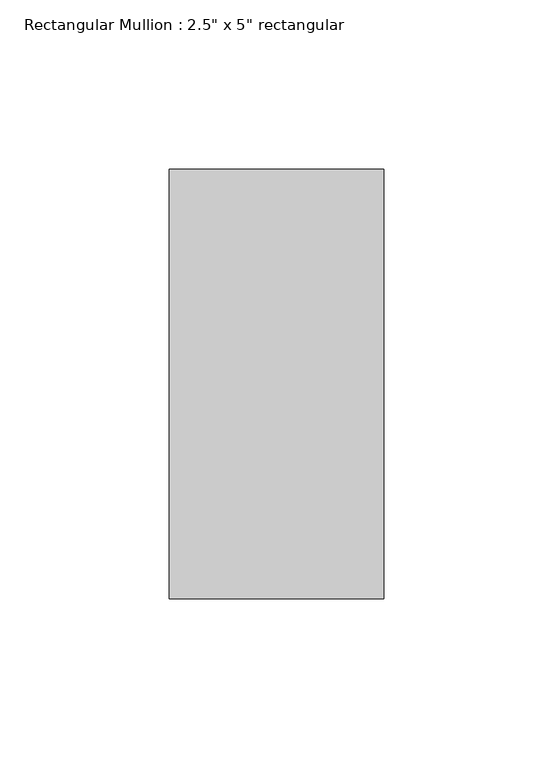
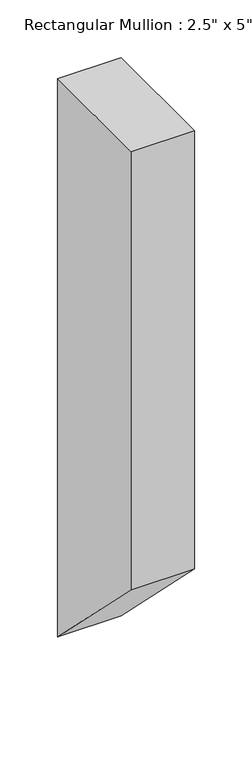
"""IFC4 building model written with IfcOpenShell, lengths in millimetres: member geometry."""

from ifc_helpers import new_model, si_unit, frame, origin, place, context, project, spatial, polyline, outline, extrude, source, transform, mapped, element, save


def member_f22891ba(model_context):
    return source(origin(), model_context, "Body", "SweptSolid", [
        extrude(outline(polyline([(-63.5, 0.0), (63.5, 0.0), (63.5, -590.55), (-63.5, -463.55), (-63.5, 0.0)])), frame((-31.75, 0.0, 0.0), z_axis=(1.0, 0.0, 0.0), x_axis=(0.0, 1.0, 0.0)), (0.0, 0.0, 1.0), 63.5),
    ])


if __name__ == "__main__":
    model = new_model("IFC4")
    model_context = context("Model", 3, world=origin())
    ifc_project = project(units=[si_unit("LENGTHUNIT", "METRE", prefix="MILLI")], contexts=[model_context])
    site = spatial("IfcSite", under=ifc_project)
    building = spatial("IfcBuilding", under=site)
    placement = place(None, origin())
    member_shape = member_f22891ba(model_context)
    element("IfcMember", 1, ObjectType="Rectangular Mullion : 2.5\" x 5\" rectangular", at=placement, inside=building, context=model_context, shape_type="MappedRepresentation", body=[
        mapped(member_shape, transform((0.0, 0.0, 0.0), x_axis=(1.0, 0.0, 0.0), y_axis=(0.0, 1.0, 0.0), z_axis=(0.0, 0.0, 1.0))),
    ])
    save(model, "model.ifc")
